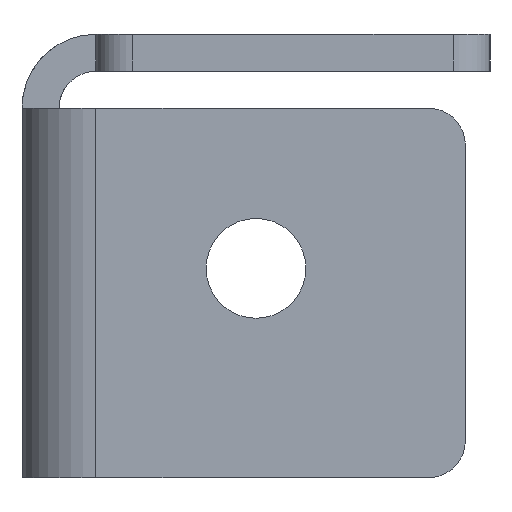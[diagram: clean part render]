
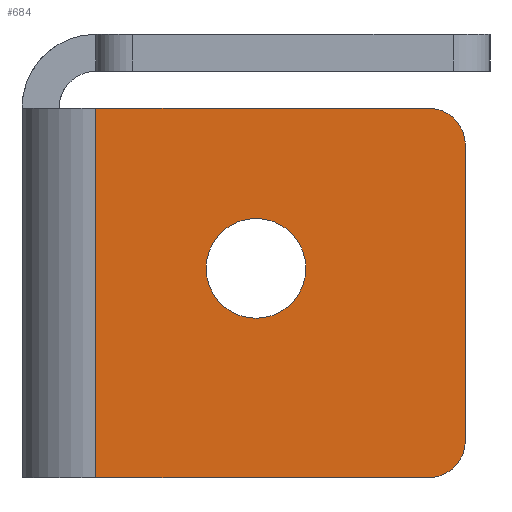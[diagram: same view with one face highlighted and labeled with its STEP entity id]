
A CAD part, left-side view. The second image highlights one B-rep face of the part: STEP entity #684.
In plain terms, the highlighted planar face has unit normal (-1, 0, 0).
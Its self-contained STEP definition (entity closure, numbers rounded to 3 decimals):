
#18=FACE_BOUND('',#122,.T.);
#43=PLANE('',#768);
#80=FACE_OUTER_BOUND('',#121,.T.);
#121=EDGE_LOOP('',(#596,#597,#598,#599,#600,#601));
#122=EDGE_LOOP('',(#602,#603));
#184=LINE('',#1138,#252);
#190=LINE('',#1155,#258);
#192=LINE('',#1158,#260);
#196=LINE('',#1170,#264);
#252=VECTOR('',#918,10.);
#258=VECTOR('',#934,4.32);
#260=VECTOR('',#938,10.);
#264=VECTOR('',#956,10.);
#269=CIRCLE('',#714,4.05);
#270=CIRCLE('',#715,4.05);
#285=CIRCLE('',#752,3.);
#288=CIRCLE('',#758,3.);
#295=VERTEX_POINT('',#979);
#296=VERTEX_POINT('',#981);
#340=VERTEX_POINT('',#1125);
#341=VERTEX_POINT('',#1126);
#345=VERTEX_POINT('',#1136);
#349=VERTEX_POINT('',#1148);
#350=VERTEX_POINT('',#1149);
#351=VERTEX_POINT('',#1154);
#356=EDGE_CURVE('',#296,#295,#269,.T.);
#357=EDGE_CURVE('',#295,#296,#270,.T.);
#422=EDGE_CURVE('',#340,#341,#285,.T.);
#428=EDGE_CURVE('',#345,#340,#184,.T.);
#433=EDGE_CURVE('',#349,#350,#288,.T.);
#436=EDGE_CURVE('',#350,#351,#190,.T.);
#438=EDGE_CURVE('',#345,#351,#192,.T.);
#446=EDGE_CURVE('',#341,#349,#196,.T.);
#596=ORIENTED_EDGE('',*,*,#422,.F.);
#597=ORIENTED_EDGE('',*,*,#428,.F.);
#598=ORIENTED_EDGE('',*,*,#438,.T.);
#599=ORIENTED_EDGE('',*,*,#436,.F.);
#600=ORIENTED_EDGE('',*,*,#433,.F.);
#601=ORIENTED_EDGE('',*,*,#446,.F.);
#602=ORIENTED_EDGE('',*,*,#356,.T.);
#603=ORIENTED_EDGE('',*,*,#357,.T.);
#684=ADVANCED_FACE('',(#80,#18),#43,.T.);
#714=AXIS2_PLACEMENT_3D('',#982,#784,#785);
#715=AXIS2_PLACEMENT_3D('',#983,#786,#787);
#752=AXIS2_PLACEMENT_3D('',#1127,#908,#909);
#758=AXIS2_PLACEMENT_3D('',#1150,#928,#929);
#768=AXIS2_PLACEMENT_3D('',#1171,#957,#958);
#784=DIRECTION('center_axis',(1.,0.,0.));
#785=DIRECTION('ref_axis',(0.,1.,0.));
#786=DIRECTION('center_axis',(1.,0.,0.));
#787=DIRECTION('ref_axis',(0.,1.,0.));
#908=DIRECTION('center_axis',(1.,0.,0.));
#909=DIRECTION('ref_axis',(0.,-0.707,0.707));
#918=DIRECTION('',(0.,-1.,0.));
#928=DIRECTION('center_axis',(1.,0.,0.));
#929=DIRECTION('ref_axis',(0.,-0.707,-0.707));
#934=DIRECTION('',(0.,1.,0.));
#938=DIRECTION('',(0.,0.,-1.));
#956=DIRECTION('',(0.,0.,-1.));
#957=DIRECTION('center_axis',(-1.,0.,0.));
#958=DIRECTION('ref_axis',(0.,0.,1.));
#979=CARTESIAN_POINT('',(-3.,14.95,-16.));
#981=CARTESIAN_POINT('',(-3.,23.05,-16.));
#982=CARTESIAN_POINT('Origin',(-3.,19.,-16.));
#983=CARTESIAN_POINT('Origin',(-3.,19.,-16.));
#1125=CARTESIAN_POINT('',(-3.,5.,-3.));
#1126=CARTESIAN_POINT('',(-3.,2.,-6.));
#1127=CARTESIAN_POINT('Origin',(-3.,5.,-6.));
#1136=CARTESIAN_POINT('',(-3.,32.,-3.));
#1138=CARTESIAN_POINT('',(-3.,32.,-3.));
#1148=CARTESIAN_POINT('',(-3.,2.,-30.));
#1149=CARTESIAN_POINT('',(-3.,5.,-33.));
#1150=CARTESIAN_POINT('Origin',(-3.,5.,-30.));
#1154=CARTESIAN_POINT('',(-3.,32.,-33.));
#1155=CARTESIAN_POINT('',(-3.,45.572,-33.));
#1158=CARTESIAN_POINT('',(-3.,32.,-18.));
#1170=CARTESIAN_POINT('',(-3.,2.,-3.));
#1171=CARTESIAN_POINT('Origin',(-3.,20.393,-18.));
